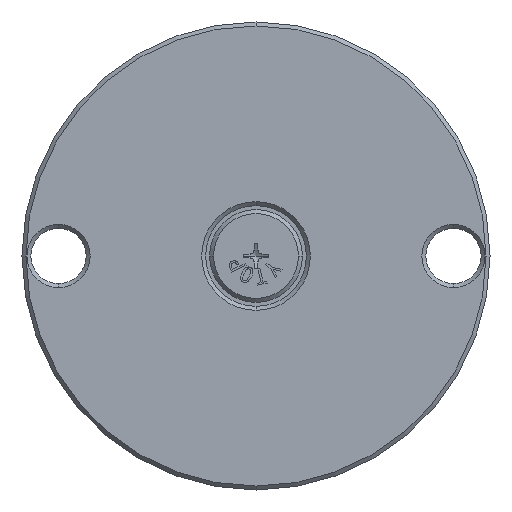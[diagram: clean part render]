
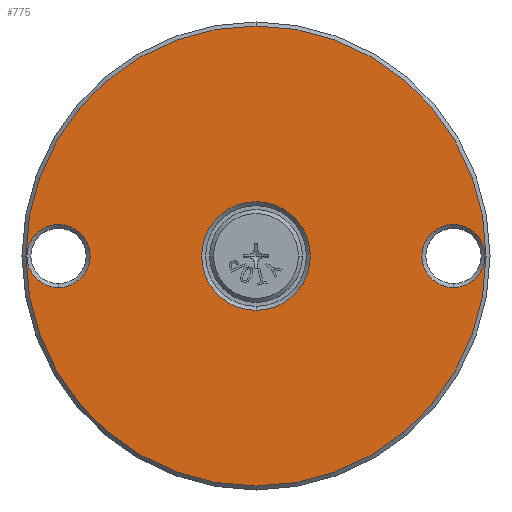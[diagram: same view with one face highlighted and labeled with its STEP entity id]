
A CAD part, front view. The second image highlights one B-rep face of the part: STEP entity #775.
In plain terms, the highlighted planar face has unit normal (0, -1, 0).
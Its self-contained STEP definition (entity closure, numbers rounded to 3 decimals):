
#19 = CIRCLE ( 'NONE', #7137, 13.75 ) ;
#452 = EDGE_CURVE ( 'NONE', #642, #3104, #6159, .T. ) ;
#476 = EDGE_LOOP ( 'NONE', ( #2374, #6860 ) ) ;
#509 = CARTESIAN_POINT ( 'NONE',  ( 50., 0., -8. ) ) ;
#570 = CIRCLE ( 'NONE', #737, 8. ) ;
#642 = VERTEX_POINT ( 'NONE', #5436 ) ;
#737 = AXIS2_PLACEMENT_3D ( 'NONE', #5484, #4868, #6114 ) ;
#775 = ADVANCED_FACE ( 'NONE', ( #6702, #5775, #3080, #6481 ), #6907, .F. ) ;
#812 = VERTEX_POINT ( 'NONE', #2403 ) ;
#915 = CARTESIAN_POINT ( 'NONE',  ( 0., 0., -13.75 ) ) ;
#1376 = CARTESIAN_POINT ( 'NONE',  ( 50., 0., 8. ) ) ;
#1405 = ORIENTED_EDGE ( 'NONE', *, *, #5153, .T. ) ;
#1408 = CARTESIAN_POINT ( 'NONE',  ( -50., 0., 0. ) ) ;
#1627 = ORIENTED_EDGE ( 'NONE', *, *, #3792, .T. ) ;
#1698 = EDGE_LOOP ( 'NONE', ( #1627, #1405 ) ) ;
#1808 = AXIS2_PLACEMENT_3D ( 'NONE', #5995, #5413, #4098 ) ;
#1909 = DIRECTION ( 'NONE',  ( 0., -1., 0. ) ) ;
#2038 = DIRECTION ( 'NONE',  ( 0., 1., 0. ) ) ;
#2117 = DIRECTION ( 'NONE',  ( 0., 0., 1. ) ) ;
#2334 = CARTESIAN_POINT ( 'NONE',  ( 0., 0., -58.25 ) ) ;
#2374 = ORIENTED_EDGE ( 'NONE', *, *, #4578, .T. ) ;
#2403 = CARTESIAN_POINT ( 'NONE',  ( 0., 0., 13.75 ) ) ;
#2615 = VERTEX_POINT ( 'NONE', #3023 ) ;
#2698 = DIRECTION ( 'NONE',  ( 0., 0., 1. ) ) ;
#2816 = EDGE_CURVE ( 'NONE', #7923, #3372, #570, .T. ) ;
#2954 = DIRECTION ( 'NONE',  ( 0., 1., 0. ) ) ;
#3023 = CARTESIAN_POINT ( 'NONE',  ( -50., 0., -8. ) ) ;
#3080 = FACE_OUTER_BOUND ( 'NONE', #7245, .T. ) ;
#3104 = VERTEX_POINT ( 'NONE', #2334 ) ;
#3136 = CARTESIAN_POINT ( 'NONE',  ( 0., 0., 0. ) ) ;
#3194 = EDGE_LOOP ( 'NONE', ( #4985, #8364 ) ) ;
#3224 = DIRECTION ( 'NONE',  ( 0., 0., 1. ) ) ;
#3317 = CARTESIAN_POINT ( 'NONE',  ( 50., 0., 0. ) ) ;
#3372 = VERTEX_POINT ( 'NONE', #509 ) ;
#3792 = EDGE_CURVE ( 'NONE', #2615, #5715, #6392, .T. ) ;
#3829 = VERTEX_POINT ( 'NONE', #915 ) ;
#3893 = CARTESIAN_POINT ( 'NONE',  ( -50., 0., 0. ) ) ;
#3980 = DIRECTION ( 'NONE',  ( 0., 1., 0. ) ) ;
#4098 = DIRECTION ( 'NONE',  ( 0., 0., 1. ) ) ;
#4274 = AXIS2_PLACEMENT_3D ( 'NONE', #1408, #7906, #2117 ) ;
#4493 = CARTESIAN_POINT ( 'NONE',  ( 0., 0., 0. ) ) ;
#4549 = DIRECTION ( 'NONE',  ( 0., -1., 0. ) ) ;
#4563 = AXIS2_PLACEMENT_3D ( 'NONE', #7737, #4549, #7055 ) ;
#4578 = EDGE_CURVE ( 'NONE', #3372, #7923, #5304, .T. ) ;
#4660 = EDGE_CURVE ( 'NONE', #812, #3829, #6291, .T. ) ;
#4701 = AXIS2_PLACEMENT_3D ( 'NONE', #4493, #1909, #5738 ) ;
#4835 = EDGE_CURVE ( 'NONE', #3104, #642, #4998, .T. ) ;
#4868 = DIRECTION ( 'NONE',  ( 0., 1., 0. ) ) ;
#4985 = ORIENTED_EDGE ( 'NONE', *, *, #5526, .T. ) ;
#4998 = CIRCLE ( 'NONE', #4701, 58.25 ) ;
#5096 = CARTESIAN_POINT ( 'NONE',  ( -50., 0., 8. ) ) ;
#5099 = CIRCLE ( 'NONE', #8125, 8. ) ;
#5153 = EDGE_CURVE ( 'NONE', #5715, #2615, #5099, .T. ) ;
#5172 = AXIS2_PLACEMENT_3D ( 'NONE', #6252, #2954, #5529 ) ;
#5304 = CIRCLE ( 'NONE', #7610, 8. ) ;
#5413 = DIRECTION ( 'NONE',  ( 0., 1., 0. ) ) ;
#5436 = CARTESIAN_POINT ( 'NONE',  ( 0., 0., 58.25 ) ) ;
#5484 = CARTESIAN_POINT ( 'NONE',  ( 50., 0., 0. ) ) ;
#5526 = EDGE_CURVE ( 'NONE', #3829, #812, #19, .T. ) ;
#5529 = DIRECTION ( 'NONE',  ( 0., 0., 1. ) ) ;
#5715 = VERTEX_POINT ( 'NONE', #5096 ) ;
#5738 = DIRECTION ( 'NONE',  ( 0., 0., 1. ) ) ;
#5775 = FACE_BOUND ( 'NONE', #1698, .T. ) ;
#5922 = ORIENTED_EDGE ( 'NONE', *, *, #4835, .T. ) ;
#5995 = CARTESIAN_POINT ( 'NONE',  ( 0., 0., 0. ) ) ;
#6114 = DIRECTION ( 'NONE',  ( 0., 0., 1. ) ) ;
#6159 = CIRCLE ( 'NONE', #4563, 58.25 ) ;
#6252 = CARTESIAN_POINT ( 'NONE',  ( 59.25, 0., 0. ) ) ;
#6291 = CIRCLE ( 'NONE', #1808, 13.75 ) ;
#6392 = CIRCLE ( 'NONE', #4274, 8. ) ;
#6481 = FACE_BOUND ( 'NONE', #3194, .T. ) ;
#6583 = ORIENTED_EDGE ( 'NONE', *, *, #452, .T. ) ;
#6702 = FACE_BOUND ( 'NONE', #476, .T. ) ;
#6860 = ORIENTED_EDGE ( 'NONE', *, *, #2816, .T. ) ;
#6907 = PLANE ( 'NONE',  #5172 ) ;
#7055 = DIRECTION ( 'NONE',  ( 0., 0., 1. ) ) ;
#7095 = DIRECTION ( 'NONE',  ( 0., 1., 0. ) ) ;
#7137 = AXIS2_PLACEMENT_3D ( 'NONE', #3136, #7095, #3224 ) ;
#7245 = EDGE_LOOP ( 'NONE', ( #6583, #5922 ) ) ;
#7610 = AXIS2_PLACEMENT_3D ( 'NONE', #3317, #2038, #7799 ) ;
#7737 = CARTESIAN_POINT ( 'NONE',  ( 0., 0., 0. ) ) ;
#7799 = DIRECTION ( 'NONE',  ( 0., 0., 1. ) ) ;
#7906 = DIRECTION ( 'NONE',  ( 0., 1., 0. ) ) ;
#7923 = VERTEX_POINT ( 'NONE', #1376 ) ;
#8125 = AXIS2_PLACEMENT_3D ( 'NONE', #3893, #3980, #2698 ) ;
#8364 = ORIENTED_EDGE ( 'NONE', *, *, #4660, .T. ) ;
